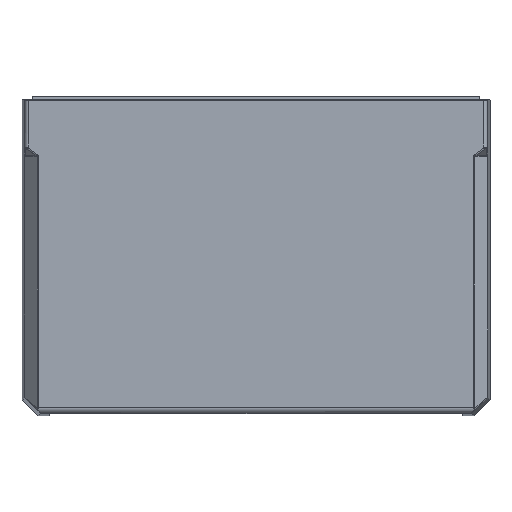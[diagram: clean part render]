
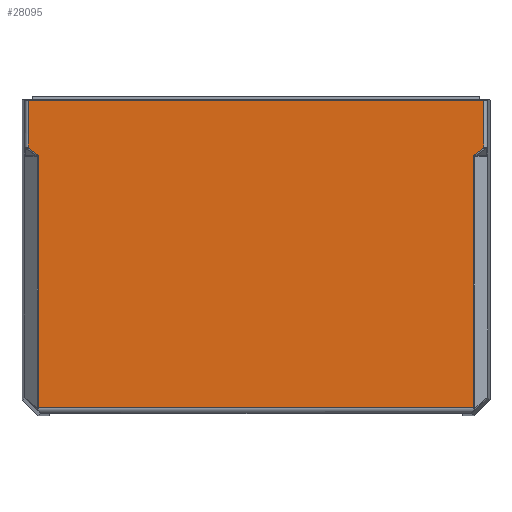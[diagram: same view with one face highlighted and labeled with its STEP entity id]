
A CAD part, front view. The second image highlights one B-rep face of the part: STEP entity #28095.
In plain terms, the highlighted planar face has unit normal (0, -1, 0).
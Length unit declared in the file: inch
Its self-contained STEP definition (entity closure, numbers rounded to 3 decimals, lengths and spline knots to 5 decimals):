
#590 = DIRECTION ( 'NONE',  ( 0.816, 0., 0.577 ) ) ;
#684 = LINE ( 'NONE', #15266, #25147 ) ;
#1397 = VECTOR ( 'NONE', #20680, 39.37008 ) ;
#1860 = VECTOR ( 'NONE', #28188, 39.37008 ) ;
#1911 = CARTESIAN_POINT ( 'NONE',  ( 3.7603, -0.985, 1.7436 ) ) ;
#2009 = CARTESIAN_POINT ( 'NONE',  ( 3.75157, -0.985, 1.71257 ) ) ;
#2105 = CARTESIAN_POINT ( 'NONE',  ( -3.75157, -0.985, 1.71257 ) ) ;
#2138 = LINE ( 'NONE', #22984, #1397 ) ;
#3059 = VERTEX_POINT ( 'NONE', #22570 ) ;
#4181 = ORIENTED_EDGE ( 'NONE', *, *, #4903, .T. ) ;
#4415 = DIRECTION ( 'NONE',  ( -1., 0., 0. ) ) ;
#4822 = CARTESIAN_POINT ( 'NONE',  ( 3.92644, -0.985, 2.687 ) ) ;
#4883 =( BOUNDED_CURVE ( )  B_SPLINE_CURVE ( 3, ( #2105, #13942, #23408, #9255 ),
 .UNSPECIFIED., .F., .F. ) 
 B_SPLINE_CURVE_WITH_KNOTS ( ( 4, 4 ),
 ( 0., 0.7854 ),
 .UNSPECIFIED. ) 
 CURVE ( )  GEOMETRIC_REPRESENTATION_ITEM ( )  RATIONAL_B_SPLINE_CURVE ( ( 1., 0.949, 0.949, 1. ) ) 
 REPRESENTATION_ITEM ( '' )  );
#4903 = EDGE_CURVE ( 'NONE', #12556, #13506, #12274, .T. ) ;
#5039 = CARTESIAN_POINT ( 'NONE',  ( -3.77643, -0.985, 1.755 ) ) ;
#5057 = DIRECTION ( 'NONE',  ( 0., 1., 0. ) ) ;
#5326 = DIRECTION ( 'NONE',  ( 1., 0., 0. ) ) ;
#5456 = ORIENTED_EDGE ( 'NONE', *, *, #8389, .T. ) ;
#5546 = EDGE_CURVE ( 'NONE', #13506, #11019, #684, .T. ) ;
#5841 = DIRECTION ( 'NONE',  ( 0.816, 0., -0.577 ) ) ;
#5861 = LINE ( 'NONE', #9384, #18478 ) ;
#7428 = EDGE_CURVE ( 'NONE', #18545, #12556, #21142, .T. ) ;
#7924 =( BOUNDED_CURVE ( )  B_SPLINE_CURVE ( 3, ( #20898, #1911, #16250, #2009 ),
 .UNSPECIFIED., .F., .F. ) 
 B_SPLINE_CURVE_WITH_KNOTS ( ( 4, 4 ),
 ( 2.35619, 3.14159 ),
 .UNSPECIFIED. ) 
 CURVE ( )  GEOMETRIC_REPRESENTATION_ITEM ( )  RATIONAL_B_SPLINE_CURVE ( ( 1., 0.949, 0.949, 1. ) ) 
 REPRESENTATION_ITEM ( '' )  );
#7965 = EDGE_CURVE ( 'NONE', #27604, #3059, #21470, .T. ) ;
#8389 = EDGE_CURVE ( 'NONE', #3059, #18545, #5861, .T. ) ;
#9230 = CARTESIAN_POINT ( 'NONE',  ( -3.75157, -0.985, -2.65078 ) ) ;
#9255 = CARTESIAN_POINT ( 'NONE',  ( -3.77643, -0.985, 1.755 ) ) ;
#9384 = CARTESIAN_POINT ( 'NONE',  ( 3.92644, -0.985, 2.692 ) ) ;
#11019 = VERTEX_POINT ( 'NONE', #5039 ) ;
#11914 = DIRECTION ( 'NONE',  ( 0., 0., 1. ) ) ;
#12107 = CARTESIAN_POINT ( 'NONE',  ( -3.92644, -0.985, 1.87 ) ) ;
#12274 = LINE ( 'NONE', #12107, #23327 ) ;
#12442 = CARTESIAN_POINT ( 'NONE',  ( -0.95979, -0.985, -1.59401 ) ) ;
#12556 = VERTEX_POINT ( 'NONE', #14569 ) ;
#13506 = VERTEX_POINT ( 'NONE', #19685 ) ;
#13758 = DIRECTION ( 'NONE',  ( 0., 0., -1. ) ) ;
#13854 = VERTEX_POINT ( 'NONE', #21213 ) ;
#13942 = CARTESIAN_POINT ( 'NONE',  ( -3.75157, -0.985, 1.7287 ) ) ;
#14228 = ORIENTED_EDGE ( 'NONE', *, *, #26924, .F. ) ;
#14468 = CARTESIAN_POINT ( 'NONE',  ( 3.75157, -0.985, -2.61797 ) ) ;
#14569 = CARTESIAN_POINT ( 'NONE',  ( -3.92644, -0.985, 2.687 ) ) ;
#14643 = ORIENTED_EDGE ( 'NONE', *, *, #5546, .T. ) ;
#15000 = LINE ( 'NONE', #19535, #16511 ) ;
#15166 = VECTOR ( 'NONE', #590, 39.37008 ) ;
#15266 = CARTESIAN_POINT ( 'NONE',  ( -4.42021, -0.985, 2.21023 ) ) ;
#15864 = AXIS2_PLACEMENT_3D ( 'NONE', #23863, #5057, #21613 ) ;
#16250 = CARTESIAN_POINT ( 'NONE',  ( 3.75157, -0.985, 1.7287 ) ) ;
#16511 = VECTOR ( 'NONE', #5326, 39.37008 ) ;
#17064 = EDGE_LOOP ( 'NONE', ( #23627, #29844, #20703, #28415, #23891, #5456, #27364, #4181, #14643, #14228 ) ) ;
#17224 = CARTESIAN_POINT ( 'NONE',  ( -3.75157, -0.985, -2.61797 ) ) ;
#17365 = FACE_OUTER_BOUND ( 'NONE', #17064, .T. ) ;
#18478 = VECTOR ( 'NONE', #11914, 39.37008 ) ;
#18482 = EDGE_CURVE ( 'NONE', #27604, #13854, #7924, .T. ) ;
#18545 = VERTEX_POINT ( 'NONE', #4822 ) ;
#19068 = VERTEX_POINT ( 'NONE', #14468 ) ;
#19269 = PLANE ( 'NONE',  #15864 ) ;
#19535 = CARTESIAN_POINT ( 'NONE',  ( 3.71201, -0.985, -2.61797 ) ) ;
#19685 = CARTESIAN_POINT ( 'NONE',  ( -3.92644, -0.985, 1.86108 ) ) ;
#19709 = CARTESIAN_POINT ( 'NONE',  ( 3.77643, -0.985, 1.755 ) ) ;
#20680 = DIRECTION ( 'NONE',  ( 0., 0., 1. ) ) ;
#20703 = ORIENTED_EDGE ( 'NONE', *, *, #27318, .T. ) ;
#20898 = CARTESIAN_POINT ( 'NONE',  ( 3.77643, -0.985, 1.755 ) ) ;
#21098 = CARTESIAN_POINT ( 'NONE',  ( -4.035, -0.985, 2.687 ) ) ;
#21142 = LINE ( 'NONE', #21098, #26623 ) ;
#21213 = CARTESIAN_POINT ( 'NONE',  ( 3.75157, -0.985, 1.71257 ) ) ;
#21387 = CARTESIAN_POINT ( 'NONE',  ( -3.75157, -0.985, 1.71257 ) ) ;
#21470 = LINE ( 'NONE', #12442, #15166 ) ;
#21527 = LINE ( 'NONE', #9230, #1860 ) ;
#21613 = DIRECTION ( 'NONE',  ( 0., 0., 1. ) ) ;
#22570 = CARTESIAN_POINT ( 'NONE',  ( 3.92644, -0.985, 1.86108 ) ) ;
#22984 = CARTESIAN_POINT ( 'NONE',  ( 3.75157, -0.985, 2.755 ) ) ;
#23327 = VECTOR ( 'NONE', #13758, 39.37008 ) ;
#23408 = CARTESIAN_POINT ( 'NONE',  ( -3.7603, -0.985, 1.7436 ) ) ;
#23627 = ORIENTED_EDGE ( 'NONE', *, *, #25750, .T. ) ;
#23678 = VERTEX_POINT ( 'NONE', #21387 ) ;
#23863 = CARTESIAN_POINT ( 'NONE',  ( -4.035, -0.985, 2.755 ) ) ;
#23891 = ORIENTED_EDGE ( 'NONE', *, *, #7965, .T. ) ;
#25147 = VECTOR ( 'NONE', #5841, 39.37008 ) ;
#25750 = EDGE_CURVE ( 'NONE', #23678, #27595, #21527, .T. ) ;
#26623 = VECTOR ( 'NONE', #4415, 39.37008 ) ;
#26924 = EDGE_CURVE ( 'NONE', #23678, #11019, #4883, .T. ) ;
#27318 = EDGE_CURVE ( 'NONE', #19068, #13854, #2138, .T. ) ;
#27364 = ORIENTED_EDGE ( 'NONE', *, *, #7428, .T. ) ;
#27595 = VERTEX_POINT ( 'NONE', #17224 ) ;
#27604 = VERTEX_POINT ( 'NONE', #19709 ) ;
#28095 = ADVANCED_FACE ( 'NONE', ( #17365 ), #19269, .F. ) ;
#28188 = DIRECTION ( 'NONE',  ( 0., 0., -1. ) ) ;
#28415 = ORIENTED_EDGE ( 'NONE', *, *, #18482, .F. ) ;
#29844 = ORIENTED_EDGE ( 'NONE', *, *, #29898, .T. ) ;
#29898 = EDGE_CURVE ( 'NONE', #27595, #19068, #15000, .T. ) ;
